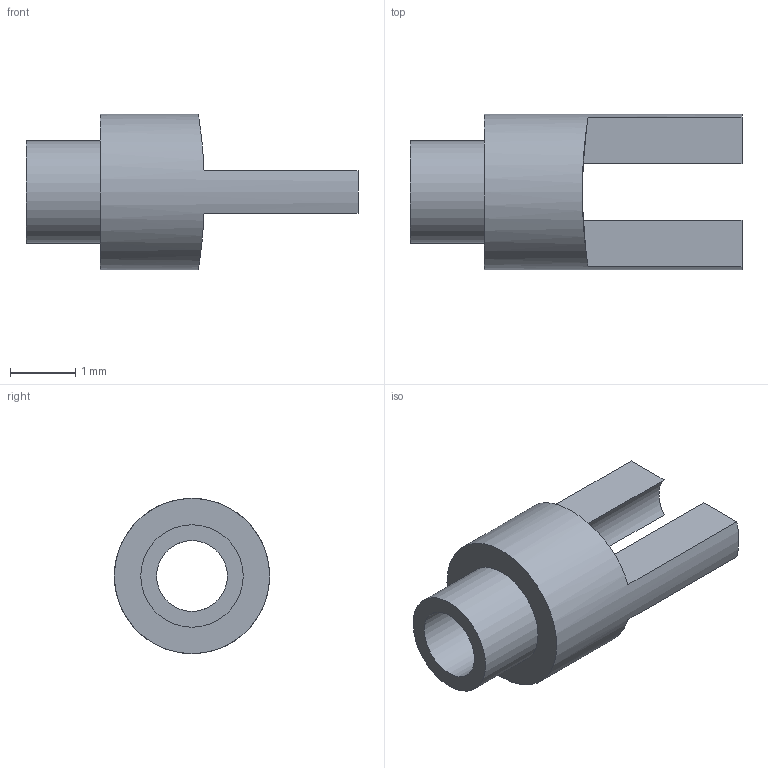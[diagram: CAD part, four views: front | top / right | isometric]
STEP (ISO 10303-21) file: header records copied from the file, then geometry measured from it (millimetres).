
FILE_DESCRIPTION(/* description */ (''),/* implementation_level */ '2;1');
FILE_NAME(/* name */ 'Z:\STEP folder\140-1785-01.ipt.stp',/* time_stamp */ '2016-12-07T10:39:29+00:00',/* author */ ('Paul Karlsons'),/* organization */ (''),/* preprocessor_version */ 'ST-DEVELOPER v15.2',/* originating_system */ 'Autodesk Inventor 2014',/* authorisation */ '');
FILE_SCHEMA (('AUTOMOTIVE_DESIGN { 1 0 10303 214 3 1 1 }'));
Length unit declared in the file: millimetre
Products named in the file (1): 140-1785-01
Bounding box: 5.11 x 2.39 x 2.39 mm (x, y, z)
Volume: 8.7 mm3; surface area: 47 mm2
Topology: 1 solids, 1 shells, 13 faces, 33 edges, 22 vertices
Faces by surface type: plane 8, cylinder 5
Full cylindrical faces by diameter (mm): 1.09 x1, 1.575 x1, 2.388 x1
Entity records: 443 total; most frequent: CARTESIAN_POINT 122, DIRECTION 64, ORIENTED_EDGE 56, EDGE_CURVE 28, AXIS2_PLACEMENT_3D 26, VERTEX_POINT 20, EDGE_LOOP 18, ADVANCED_FACE 13
